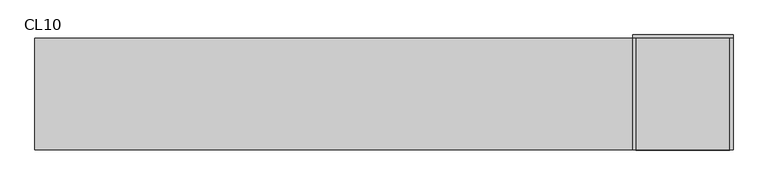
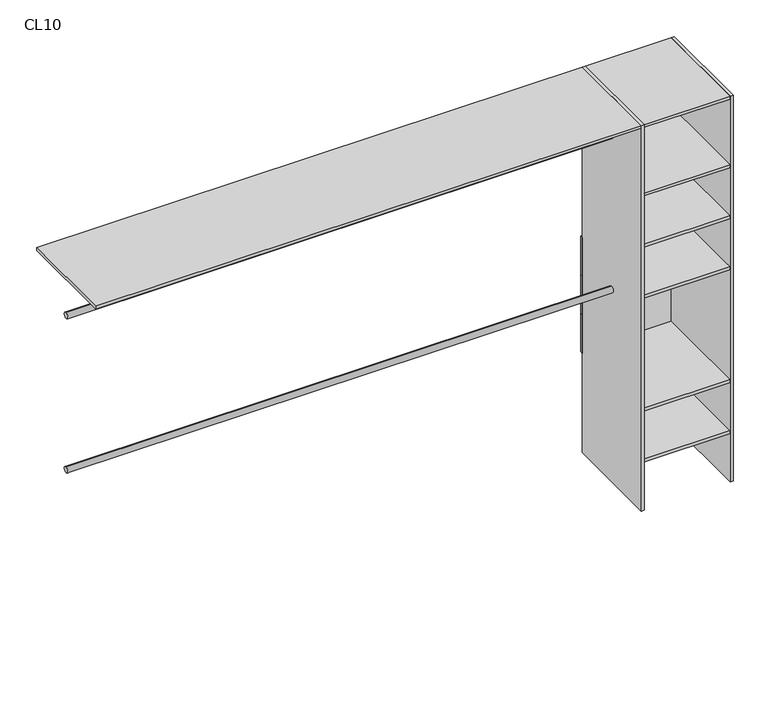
"""IFC4 building model written with IfcOpenShell, lengths in millimetres: furniture geometry, Closet 1estantes-1tubos_sin laterales : CL10."""

from ifc_helpers import new_model, si_unit, point, frame, frame_2d, origin, origin_with_axes, place, context, project, spatial, polyline, circle_curve, trimmed, segment, composite_curve, outline, extrude, source, transform, mapped, element, save


def cl10_b1a61eb6(model_context):
    return source(origin(), model_context, "Body", "SweptSolid", [
        extrude(outline(polyline([(225.0, -100.0), (225.0, -600.0), (210.0, -600.0), (210.0, -100.0), (225.0, -100.0)])), origin_with_axes(), (0.0, 0.0, 1.0), 2000.0),
        extrude(outline(polyline([(-210.0, -100.0), (-210.0, -600.0), (-225.0, -600.0), (-225.0, -100.0), (-210.0, -100.0)])), origin_with_axes(), (0.0, 0.0, 1.0), 2000.0),
        extrude(outline(polyline([(225.0, -100.0), (-225.0, -100.0), (-225.0, -85.0), (225.0, -85.0), (225.0, -100.0)])), frame((0.0, 0.0, 915.0), z_axis=(0.0, 0.0, 1.0), x_axis=(1.0, 0.0, 0.0)), (0.0, 0.0, 1.0), 200.0),
        extrude(outline(polyline([(225.0, -100.0), (-225.0, -100.0), (-225.0, -85.0), (225.0, -85.0), (225.0, -100.0)])), frame((0.0, 0.0, 715.0), z_axis=(0.0, 0.0, 1.0), x_axis=(1.0, 0.0, 0.0)), (0.0, 0.0, 1.0), 200.0),
        extrude(outline(polyline([(225.0, -100.0), (-225.0, -100.0), (-225.0, -85.0), (225.0, -85.0), (225.0, -100.0)])), frame((0.0, 0.0, 515.0), z_axis=(0.0, 0.0, 1.0), x_axis=(1.0, 0.0, 0.0)), (0.0, 0.0, 1.0), 200.0),
        extrude(outline(polyline([(210.0, -100.0), (210.0, -600.0), (-210.0, -600.0), (-210.0, -100.0), (210.0, -100.0)])), frame((0.0, 0.0, 1100.0), z_axis=(0.0, 0.0, 1.0), x_axis=(1.0, 0.0, 0.0)), (0.0, 0.0, 1.0), 15.0),
        extrude(outline(composite_curve([segment(trimmed(circle_curve(frame_2d((-350.0, 1000.0)), 15.0), [point((-350.0, 1015.0))], [point((-350.0, 985.0))], False, "CARTESIAN"), True, "CONTINUOUS"), segment(trimmed(circle_curve(frame_2d((-350.0, 1000.0)), 15.0), [point((-350.0, 985.0))], [point((-350.0, 1015.0))], False, "CARTESIAN"), True, "CONTINUOUS")], self_intersect=False)), frame((-2900.0, 0.0, 0.0), z_axis=(1.0, 0.0, 0.0), x_axis=(0.0, 1.0, 0.0)), (0.0, 0.0, 1.0), 2675.0),
        extrude(outline(composite_curve([segment(trimmed(circle_curve(frame_2d((-350.0, 1800.0)), 15.0), [point((-350.0, 1815.0))], [point((-350.0, 1785.0))], False, "CARTESIAN"), True, "CONTINUOUS"), segment(trimmed(circle_curve(frame_2d((-350.0, 1800.0)), 15.0), [point((-350.0, 1785.0))], [point((-350.0, 1815.0))], False, "CARTESIAN"), True, "CONTINUOUS")], self_intersect=False)), frame((-2900.0, 0.0, 0.0), z_axis=(1.0, 0.0, 0.0), x_axis=(0.0, 1.0, 0.0)), (0.0, 0.0, 1.0), 2675.0),
        extrude(outline(polyline([(210.0, -100.0), (210.0, -600.0), (-210.0, -600.0), (-210.0, -100.0), (210.0, -100.0)])), frame((0.0, 0.0, 250.0), z_axis=(0.0, 0.0, 1.0), x_axis=(1.0, 0.0, 0.0)), (0.0, 0.0, 1.0), 15.0),
        extrude(outline(polyline([(210.0, -100.0), (210.0, -600.0), (-210.0, -600.0), (-210.0, -100.0), (210.0, -100.0)])), frame((0.0, 0.0, 515.0), z_axis=(0.0, 0.0, 1.0), x_axis=(1.0, 0.0, 0.0)), (0.0, 0.0, 1.0), 15.0),
        extrude(outline(polyline([(210.0, -100.0), (210.0, -600.0), (-210.0, -600.0), (-210.0, -100.0), (210.0, -100.0)])), frame((0.0, 0.0, 1365.0), z_axis=(0.0, 0.0, 1.0), x_axis=(1.0, 0.0, 0.0)), (0.0, 0.0, 1.0), 15.0),
        extrude(outline(polyline([(210.0, -100.0), (210.0, -600.0), (-210.0, -600.0), (-210.0, -100.0), (210.0, -100.0)])), frame((0.0, 0.0, 1630.0), z_axis=(0.0, 0.0, 1.0), x_axis=(1.0, 0.0, 0.0)), (0.0, 0.0, 1.0), 15.0),
        extrude(outline(polyline([(-210.0, -100.0), (-210.0, -600.0), (-2900.0, -600.0), (-2900.0, -100.0), (-210.0, -100.0)])), frame((0.0, 0.0, 1985.0), z_axis=(0.0, 0.0, 1.0), x_axis=(1.0, 0.0, 0.0)), (0.0, 0.0, 1.0), 15.0),
        extrude(outline(polyline([(210.0, -100.0), (210.0, -600.0), (-210.0, -600.0), (-210.0, -100.0), (210.0, -100.0)])), frame((0.0, 0.0, 1985.0), z_axis=(0.0, 0.0, 1.0), x_axis=(1.0, 0.0, 0.0)), (0.0, 0.0, 1.0), 15.0),
    ])


if __name__ == "__main__":
    model = new_model("IFC4")
    model_context = context("Model", 3, world=origin())
    ifc_project = project(units=[si_unit("LENGTHUNIT", "METRE", prefix="MILLI")], contexts=[model_context])
    site = spatial("IfcSite", under=ifc_project)
    building = spatial("IfcBuilding", under=site)
    placement = place(None, origin())
    cl10_shape = cl10_b1a61eb6(model_context)
    element("IfcFurniture", 1, ObjectType="Closet 1estantes-1tubos_sin laterales : CL10", at=placement, inside=building, context=model_context, shape_type="MappedRepresentation", body=[
        mapped(cl10_shape, transform((0.0, 0.0, 0.0), x_axis=(1.0, 0.0, 0.0), y_axis=(0.0, 1.0, 0.0), z_axis=(0.0, 0.0, 1.0))),
    ])
    save(model, "model.ifc")
